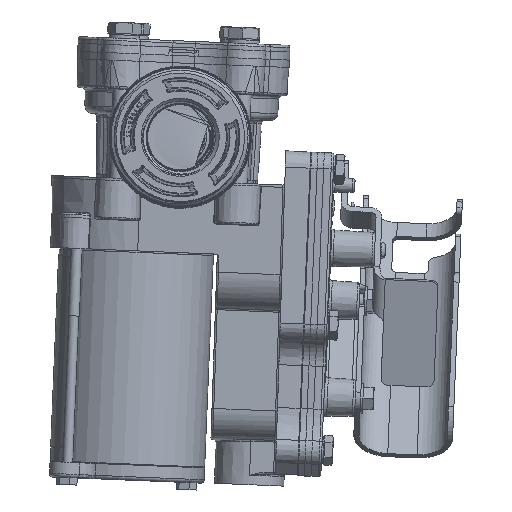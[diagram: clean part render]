
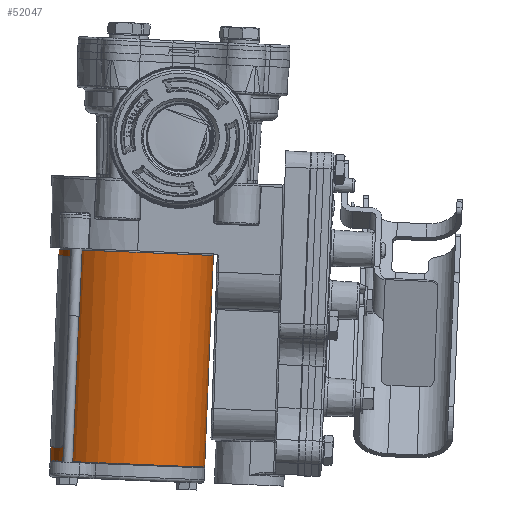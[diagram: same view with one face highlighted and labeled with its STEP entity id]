
A CAD part, front view. The second image highlights one B-rep face of the part: STEP entity #52047.
In plain terms, the highlighted cylindrical face has radius 33.337 mm (diameter 66.675 mm), a full revolution.
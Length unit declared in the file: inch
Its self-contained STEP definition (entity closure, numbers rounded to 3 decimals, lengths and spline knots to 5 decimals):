
#2834=CYLINDRICAL_SURFACE('',#55152,1.3125);
#3401=FACE_OUTER_BOUND('',#6428,.T.);
#6428=EDGE_LOOP('',(#33854,#33855,#33856,#33857));
#9681=CIRCLE('',#55153,1.3125);
#9682=CIRCLE('',#55154,1.3125);
#12679=LINE('',#81208,#16955);
#16955=VECTOR('',#59226,1.3125);
#21351=VERTEX_POINT('',#81205);
#21352=VERTEX_POINT('',#81207);
#26194=EDGE_CURVE('',#21351,#21351,#9681,.T.);
#26195=EDGE_CURVE('',#21351,#21352,#12679,.T.);
#26196=EDGE_CURVE('',#21352,#21352,#9682,.T.);
#33854=ORIENTED_EDGE('',*,*,#26194,.T.);
#33855=ORIENTED_EDGE('',*,*,#26195,.T.);
#33856=ORIENTED_EDGE('',*,*,#26196,.F.);
#33857=ORIENTED_EDGE('',*,*,#26195,.F.);
#52047=ADVANCED_FACE('',(#3401),#2834,.T.);
#55152=AXIS2_PLACEMENT_3D('',#81204,#59222,#59223);
#55153=AXIS2_PLACEMENT_3D('',#81206,#59224,#59225);
#55154=AXIS2_PLACEMENT_3D('',#81209,#59227,#59228);
#59222=DIRECTION('center_axis',(0.041,0.,
0.999));
#59223=DIRECTION('ref_axis',(-0.998,0.044,0.041));
#59224=DIRECTION('center_axis',(-0.041,0.,
-0.999));
#59225=DIRECTION('ref_axis',(-0.998,0.044,0.041));
#59226=DIRECTION('',(-0.041,0.,-0.999));
#59227=DIRECTION('center_axis',(-0.041,0.,
-0.999));
#59228=DIRECTION('ref_axis',(-0.998,0.044,0.041));
#81204=CARTESIAN_POINT('Origin',(1.2073,1.06183,-15.81525));
#81205=CARTESIAN_POINT('',(2.66635,1.0039,-12.25836));
#81206=CARTESIAN_POINT('Origin',(1.35625,1.06183,-12.20432));
#81207=CARTESIAN_POINT('',(2.51803,1.0039,-15.8543));
#81208=CARTESIAN_POINT('',(2.51741,1.0039,-15.86929));
#81209=CARTESIAN_POINT('Origin',(1.20792,1.06183,-15.80026));
